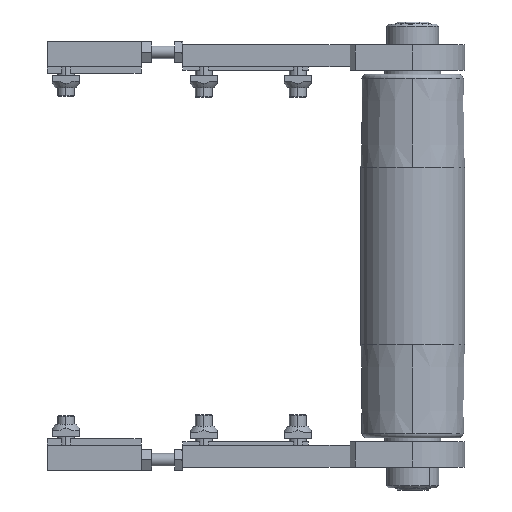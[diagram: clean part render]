
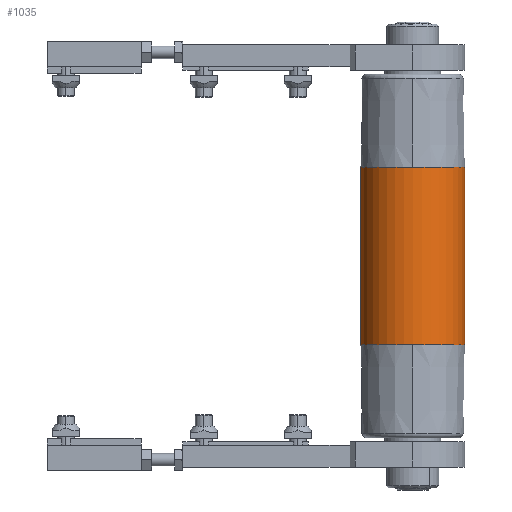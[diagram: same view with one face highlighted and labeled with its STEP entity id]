
A CAD part, front view. The second image highlights one B-rep face of the part: STEP entity #1035.
In plain terms, the highlighted cylindrical face has radius 25 mm (diameter 50 mm), a partial arc.
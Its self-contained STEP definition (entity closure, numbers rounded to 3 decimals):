
#409 = CIRCLE ( 'NONE', #1419, 25. ) ;
#500 = AXIS2_PLACEMENT_3D ( 'NONE', #9814, #11668, #4007 ) ;
#849 = CARTESIAN_POINT ( 'NONE',  ( 85., 0., -25. ) ) ;
#988 = VECTOR ( 'NONE', #4891, 1000. ) ;
#1035 = ADVANCED_FACE ( 'NONE', ( #2346 ), #9507, .T. ) ;
#1102 = ORIENTED_EDGE ( 'NONE', *, *, #7174, .F. ) ;
#1132 = CARTESIAN_POINT ( 'NONE',  ( -42.5, 0., 0. ) ) ;
#1419 = AXIS2_PLACEMENT_3D ( 'NONE', #10267, #3538, #11254 ) ;
#1596 = EDGE_CURVE ( 'NONE', #7939, #8017, #8587, .T. ) ;
#2168 = DIRECTION ( 'NONE',  ( 0., -1., 0. ) ) ;
#2227 = AXIS2_PLACEMENT_3D ( 'NONE', #11619, #4722, #3759 ) ;
#2346 = FACE_OUTER_BOUND ( 'NONE', #5225, .T. ) ;
#2590 = EDGE_CURVE ( 'NONE', #7940, #8017, #7147, .T. ) ;
#2758 = AXIS2_PLACEMENT_3D ( 'NONE', #5748, #10622, #8715 ) ;
#2954 = ORIENTED_EDGE ( 'NONE', *, *, #9435, .F. ) ;
#3363 = CARTESIAN_POINT ( 'NONE',  ( 42.5, 0., 25. ) ) ;
#3538 = DIRECTION ( 'NONE',  ( -1., 0., 0. ) ) ;
#3601 = LINE ( 'NONE', #5067, #11766 ) ;
#3759 = DIRECTION ( 'NONE',  ( 0., -1., 0. ) ) ;
#4007 = DIRECTION ( 'NONE',  ( 0., 0., 1. ) ) ;
#4321 = CARTESIAN_POINT ( 'NONE',  ( -42.5, 25., 0. ) ) ;
#4722 = DIRECTION ( 'NONE',  ( -1., 0., 0. ) ) ;
#4830 = EDGE_CURVE ( 'NONE', #5164, #6792, #9370, .T. ) ;
#4891 = DIRECTION ( 'NONE',  ( -1., 0., 0. ) ) ;
#5067 = CARTESIAN_POINT ( 'NONE',  ( 85., 0., 25. ) ) ;
#5101 = DIRECTION ( 'NONE',  ( -1., 0., 0. ) ) ;
#5164 = VERTEX_POINT ( 'NONE', #3363 ) ;
#5183 = EDGE_CURVE ( 'NONE', #6792, #7939, #409, .T. ) ;
#5225 = EDGE_LOOP ( 'NONE', ( #5809, #10498, #5669, #10810, #2954, #1102 ) ) ;
#5669 = ORIENTED_EDGE ( 'NONE', *, *, #1596, .T. ) ;
#5748 = CARTESIAN_POINT ( 'NONE',  ( -42.5, 0., 0. ) ) ;
#5809 = ORIENTED_EDGE ( 'NONE', *, *, #4830, .T. ) ;
#6792 = VERTEX_POINT ( 'NONE', #7217 ) ;
#7147 = CIRCLE ( 'NONE', #2758, 25. ) ;
#7174 = EDGE_CURVE ( 'NONE', #5164, #11410, #3601, .T. ) ;
#7217 = CARTESIAN_POINT ( 'NONE',  ( 42.5, 25., 0. ) ) ;
#7939 = VERTEX_POINT ( 'NONE', #8297 ) ;
#7940 = VERTEX_POINT ( 'NONE', #4321 ) ;
#8017 = VERTEX_POINT ( 'NONE', #10407 ) ;
#8297 = CARTESIAN_POINT ( 'NONE',  ( 42.5, 0., -25. ) ) ;
#8587 = LINE ( 'NONE', #849, #988 ) ;
#8715 = DIRECTION ( 'NONE',  ( 0., -1., 0. ) ) ;
#9370 = CIRCLE ( 'NONE', #2227, 25. ) ;
#9435 = EDGE_CURVE ( 'NONE', #11410, #7940, #10080, .T. ) ;
#9507 = CYLINDRICAL_SURFACE ( 'NONE', #500, 25. ) ;
#9560 = AXIS2_PLACEMENT_3D ( 'NONE', #1132, #5101, #2168 ) ;
#9814 = CARTESIAN_POINT ( 'NONE',  ( 85., 0., 0. ) ) ;
#10080 = CIRCLE ( 'NONE', #9560, 25. ) ;
#10267 = CARTESIAN_POINT ( 'NONE',  ( 42.5, 0., 0. ) ) ;
#10407 = CARTESIAN_POINT ( 'NONE',  ( -42.5, 0., -25. ) ) ;
#10498 = ORIENTED_EDGE ( 'NONE', *, *, #5183, .T. ) ;
#10622 = DIRECTION ( 'NONE',  ( -1., 0., 0. ) ) ;
#10810 = ORIENTED_EDGE ( 'NONE', *, *, #2590, .F. ) ;
#10887 = CARTESIAN_POINT ( 'NONE',  ( -42.5, 0., 25. ) ) ;
#11254 = DIRECTION ( 'NONE',  ( 0., -1., 0. ) ) ;
#11410 = VERTEX_POINT ( 'NONE', #10887 ) ;
#11619 = CARTESIAN_POINT ( 'NONE',  ( 42.5, 0., 0. ) ) ;
#11668 = DIRECTION ( 'NONE',  ( -1., 0., 0. ) ) ;
#11766 = VECTOR ( 'NONE', #11828, 1000. ) ;
#11828 = DIRECTION ( 'NONE',  ( -1., 0., 0. ) ) ;
